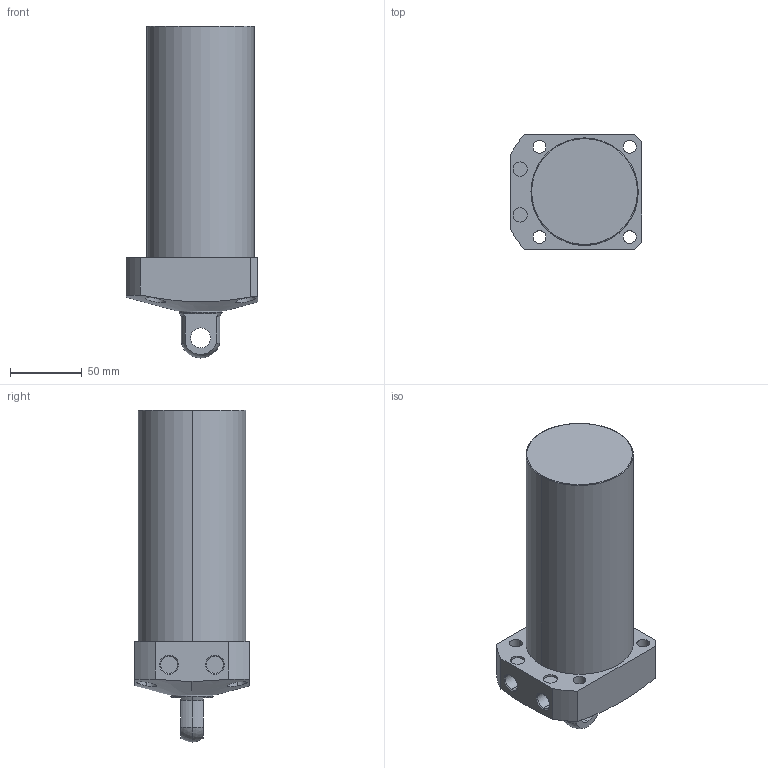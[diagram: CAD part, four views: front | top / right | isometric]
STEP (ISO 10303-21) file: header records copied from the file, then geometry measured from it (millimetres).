
FILE_DESCRIPTION (( 'STEP AP203' ), '1' );
FILE_NAME ('CLL-075CP-125.STEP', '2019-12-25T07:44:54', ( '' ), ( '' ), 'SwSTEP 2.0', 'SolidWorks 2015', '' );
FILE_SCHEMA (( 'CONFIG_CONTROL_DESIGN' ));
Length unit declared in the file: millimetre
Products named in the file (1): CLL-075CP-125
Bounding box: 92 x 80 x 232 mm (x, y, z)
Volume: 943135.9 mm3; surface area: 70074 mm2
Topology: 1 solids, 1 shells, 68 faces, 159 edges, 103 vertices
Faces by surface type: cylinder 35, plane 21, cone 8, sphere 2, torus 2
Entity records: 2459 total; most frequent: CARTESIAN_POINT 762, DIRECTION 357, ORIENTED_EDGE 318, EDGE_CURVE 159, AXIS2_PLACEMENT_3D 149, VERTEX_POINT 103, EDGE_LOOP 88, CIRCLE 80
